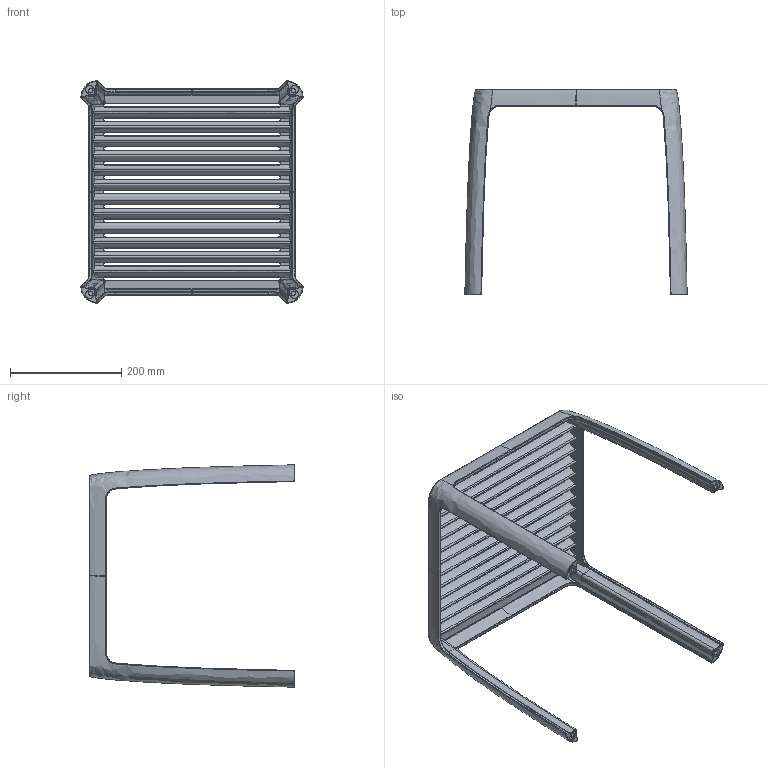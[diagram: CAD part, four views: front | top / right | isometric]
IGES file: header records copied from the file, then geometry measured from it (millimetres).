
Start section: SolidWorks IGES file using analytic representation for surfaces
Global section: file name: C:\Users\ibrahim\Desktop\sehpa wave.IGS; native system: SolidWorks 2015; preprocessor: SolidWorks 2015; author: ibrahim; date: 160311.082318; units: millimetre
Bounding box: 399.93 x 370 x 399.93 mm (x, y, z)
Surface area: 530115.1 mm2 (no closed solid volume)
Topology: 0 solids, 0 shells, 709 faces, 9684 edges, 9660 vertices
Faces by surface type: bspline 527, revolution 182
